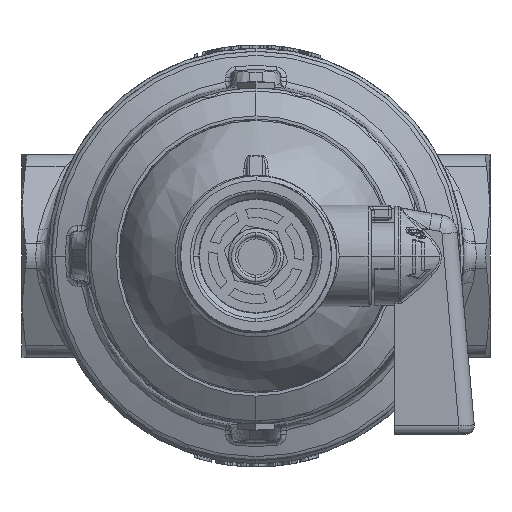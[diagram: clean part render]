
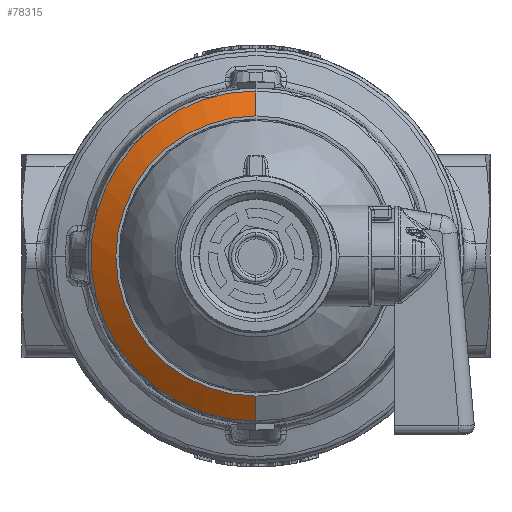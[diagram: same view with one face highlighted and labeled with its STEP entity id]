
A CAD part, front view. The second image highlights one B-rep face of the part: STEP entity #78315.
In plain terms, the highlighted conical face has half-angle 56.31 degrees and reference radius 26.805 mm.
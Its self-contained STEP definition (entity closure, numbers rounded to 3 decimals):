
#2450 = CIRCLE ( 'NONE', #141841, 22.75 ) ;
#6664 = ORIENTED_EDGE ( 'NONE', *, *, #19582, .T. ) ;
#8136 = DIRECTION ( 'NONE',  ( -0.968, 0., 0.25 ) ) ;
#15416 = VERTEX_POINT ( 'NONE', #134938 ) ;
#19582 = EDGE_CURVE ( 'NONE', #147142, #162602, #40814, .T. ) ;
#27594 = LINE ( 'NONE', #45011, #102484 ) ;
#40814 = LINE ( 'NONE', #155323, #101503 ) ;
#43626 = DIRECTION ( 'NONE',  ( 0., 1., 0. ) ) ;
#45011 = CARTESIAN_POINT ( 'NONE',  ( 0., -130.797, -26.805 ) ) ;
#51155 = CONICAL_SURFACE ( 'NONE', #69714, 26.805, 0.983 ) ;
#64574 = EDGE_CURVE ( 'NONE', #153698, #182245, #27594, .T. ) ;
#67691 = CARTESIAN_POINT ( 'NONE',  ( 0., -133.5, -22.75 ) ) ;
#69467 = EDGE_CURVE ( 'NONE', #15416, #162602, #90403, .T. ) ;
#69714 = AXIS2_PLACEMENT_3D ( 'NONE', #70390, #156722, #145052 ) ;
#70390 = CARTESIAN_POINT ( 'NONE',  ( 0., -130.797, 0. ) ) ;
#72840 = AXIS2_PLACEMENT_3D ( 'NONE', #169461, #110328, #157737 ) ;
#74918 = ORIENTED_EDGE ( 'NONE', *, *, #140996, .F. ) ;
#78315 = ADVANCED_FACE ( 'NONE', ( #114067 ), #51155, .T. ) ;
#90403 = CIRCLE ( 'NONE', #177041, 26.805 ) ;
#97441 = CARTESIAN_POINT ( 'NONE',  ( 0., -130.797, -26.805 ) ) ;
#101503 = VECTOR ( 'NONE', #186342, 1000. ) ;
#102484 = VECTOR ( 'NONE', #144006, 1000. ) ;
#109072 = DIRECTION ( 'NONE',  ( 0., 1., 0. ) ) ;
#110328 = DIRECTION ( 'NONE',  ( 0., 1., 0. ) ) ;
#112834 = CARTESIAN_POINT ( 'NONE',  ( 0., -130.797, 0. ) ) ;
#114067 = FACE_OUTER_BOUND ( 'NONE', #134578, .T. ) ;
#116203 = CIRCLE ( 'NONE', #72840, 26.805 ) ;
#121423 = EDGE_CURVE ( 'NONE', #153698, #147142, #2450, .T. ) ;
#123435 = CARTESIAN_POINT ( 'NONE',  ( 0., -133.5, 22.75 ) ) ;
#134578 = EDGE_LOOP ( 'NONE', ( #188018, #183885, #6664, #147364, #74918 ) ) ;
#134938 = CARTESIAN_POINT ( 'NONE',  ( -25.952, -130.797, 6.706 ) ) ;
#140996 = EDGE_CURVE ( 'NONE', #182245, #15416, #116203, .T. ) ;
#141841 = AXIS2_PLACEMENT_3D ( 'NONE', #150784, #109072, #164394 ) ;
#144006 = DIRECTION ( 'NONE',  ( 0., 0.555, -0.832 ) ) ;
#145052 = DIRECTION ( 'NONE',  ( 0., 0., 1. ) ) ;
#147142 = VERTEX_POINT ( 'NONE', #123435 ) ;
#147364 = ORIENTED_EDGE ( 'NONE', *, *, #69467, .F. ) ;
#150784 = CARTESIAN_POINT ( 'NONE',  ( 0., -133.5, 0. ) ) ;
#153698 = VERTEX_POINT ( 'NONE', #67691 ) ;
#155323 = CARTESIAN_POINT ( 'NONE',  ( 0., -130.797, 26.805 ) ) ;
#156610 = CARTESIAN_POINT ( 'NONE',  ( 0., -130.797, 26.805 ) ) ;
#156722 = DIRECTION ( 'NONE',  ( 0., 1., 0. ) ) ;
#157737 = DIRECTION ( 'NONE',  ( -0.968, 0., 0.25 ) ) ;
#162602 = VERTEX_POINT ( 'NONE', #156610 ) ;
#164394 = DIRECTION ( 'NONE',  ( 0., 0., 1. ) ) ;
#169461 = CARTESIAN_POINT ( 'NONE',  ( 0., -130.797, 0. ) ) ;
#177041 = AXIS2_PLACEMENT_3D ( 'NONE', #112834, #43626, #8136 ) ;
#182245 = VERTEX_POINT ( 'NONE', #97441 ) ;
#183885 = ORIENTED_EDGE ( 'NONE', *, *, #121423, .T. ) ;
#186342 = DIRECTION ( 'NONE',  ( 0., 0.555, 0.832 ) ) ;
#188018 = ORIENTED_EDGE ( 'NONE', *, *, #64574, .F. ) ;
